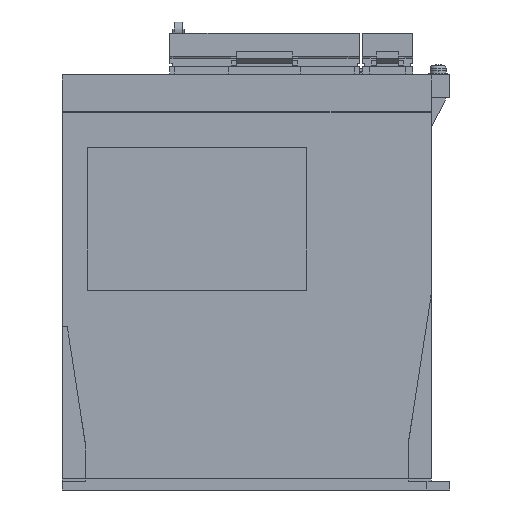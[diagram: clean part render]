
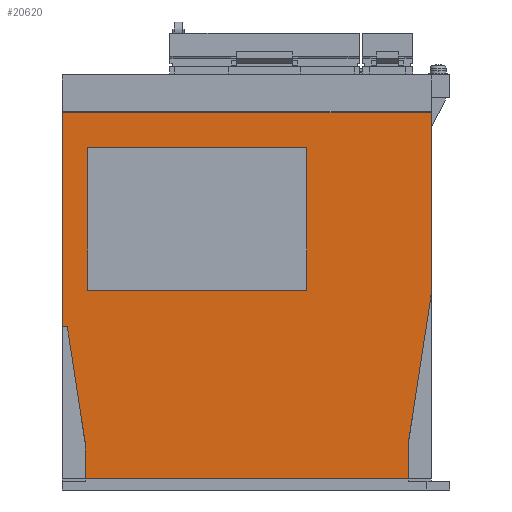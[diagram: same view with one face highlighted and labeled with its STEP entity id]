
A CAD part, left-side view. The second image highlights one B-rep face of the part: STEP entity #20620.
In plain terms, the highlighted planar face has unit normal (-1, 0, 0).
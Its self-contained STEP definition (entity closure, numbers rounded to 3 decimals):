
#593=DIRECTION('',(0.,0.,-1.));
#594=VECTOR('',#593,93.2);
#595=CARTESIAN_POINT('',(0.,160.,163.9));
#596=LINE('',#595,#594);
#1277=DIRECTION('',(0.,0.,1.));
#1278=VECTOR('',#1277,78.9);
#1279=CARTESIAN_POINT('',(0.,0.,85.));
#1280=LINE('',#1279,#1278);
#1385=DIRECTION('',(0.,1.,0.));
#1386=VECTOR('',#1385,140.);
#1387=CARTESIAN_POINT('',(0.,10.,4.9));
#1388=LINE('',#1387,#1386);
#1389=DIRECTION('',(0.,0.152,0.988));
#1390=VECTOR('',#1389,51.296);
#1391=CARTESIAN_POINT('',(0.,150.,20.));
#1392=LINE('',#1391,#1390);
#1393=DIRECTION('',(0.,1.,0.));
#1394=VECTOR('',#1393,2.2);
#1395=CARTESIAN_POINT('',(0.,157.8,70.7));
#1396=LINE('',#1395,#1394);
#1397=DIRECTION('',(0.,-1.,0.));
#1398=VECTOR('',#1397,160.);
#1399=CARTESIAN_POINT('',(0.,160.,163.9));
#1400=LINE('',#1399,#1398);
#1401=DIRECTION('',(0.,0.152,-0.988));
#1402=VECTOR('',#1401,65.765);
#1403=CARTESIAN_POINT('',(0.,0.,85.));
#1404=LINE('',#1403,#1402);
#1405=DIRECTION('',(0.,0.,-1.));
#1406=VECTOR('',#1405,15.1);
#1407=CARTESIAN_POINT('',(0.,10.,20.));
#1408=LINE('',#1407,#1406);
#1409=DIRECTION('',(0.,-1.,0.));
#1410=VECTOR('',#1409,95.);
#1411=CARTESIAN_POINT('',(0.,149.,86.6));
#1412=LINE('',#1411,#1410);
#1425=DIRECTION('',(0.,0.,-1.));
#1426=VECTOR('',#1425,15.1);
#1427=CARTESIAN_POINT('',(0.,150.,20.));
#1428=LINE('',#1427,#1426);
#1613=DIRECTION('',(0.,0.,1.));
#1614=VECTOR('',#1613,62.);
#1615=CARTESIAN_POINT('',(0.,149.,86.6));
#1616=LINE('',#1615,#1614);
#1621=DIRECTION('',(0.,-1.,0.));
#1622=VECTOR('',#1621,95.);
#1623=CARTESIAN_POINT('',(0.,149.,148.6));
#1624=LINE('',#1623,#1622);
#1629=DIRECTION('',(0.,0.,-1.));
#1630=VECTOR('',#1629,62.);
#1631=CARTESIAN_POINT('',(0.,54.,148.6));
#1632=LINE('',#1631,#1630);
#14372=CARTESIAN_POINT('',(0.,160.,163.9));
#14373=VERTEX_POINT('',#14372);
#14374=CARTESIAN_POINT('',(0.,160.,70.7));
#14375=VERTEX_POINT('',#14374);
#14398=CARTESIAN_POINT('',(0.,0.,163.9));
#14399=VERTEX_POINT('',#14398);
#17392=CARTESIAN_POINT('',(0.,150.,4.9));
#17393=VERTEX_POINT('',#17392);
#17394=CARTESIAN_POINT('',(0.,10.,4.9));
#17395=VERTEX_POINT('',#17394);
#17405=CARTESIAN_POINT('',(0.,157.8,70.7));
#17407=VERTEX_POINT('',#17405);
#17408=CARTESIAN_POINT('',(0.,150.,20.));
#17409=VERTEX_POINT('',#17408);
#17418=CARTESIAN_POINT('',(0.,0.,85.));
#17419=VERTEX_POINT('',#17418);
#17420=CARTESIAN_POINT('',(0.,10.,20.));
#17421=VERTEX_POINT('',#17420);
#17422=CARTESIAN_POINT('',(0.,149.,86.6));
#17423=CARTESIAN_POINT('',(0.,54.,86.6));
#17424=VERTEX_POINT('',#17422);
#17425=VERTEX_POINT('',#17423);
#17426=CARTESIAN_POINT('',(0.,54.,148.6));
#17427=VERTEX_POINT('',#17426);
#17428=CARTESIAN_POINT('',(0.,149.,148.6));
#17429=VERTEX_POINT('',#17428);
#20591=CARTESIAN_POINT('',(0.,160.,0.));
#20592=DIRECTION('',(-1.,0.,0.));
#20593=DIRECTION('',(0.,-1.,0.));
#20594=AXIS2_PLACEMENT_3D('',#20591,#20592,#20593);
#20595=PLANE('',#20594);
#20596=ORIENTED_EDGE('',*,*,#20418,.T.);
#20598=ORIENTED_EDGE('',*,*,#20597,.F.);
#20599=ORIENTED_EDGE('',*,*,#20524,.T.);
#20600=ORIENTED_EDGE('',*,*,#20561,.T.);
#20601=ORIENTED_EDGE('',*,*,#19437,.F.);
#20602=ORIENTED_EDGE('',*,*,#19562,.T.);
#20603=ORIENTED_EDGE('',*,*,#20368,.F.);
#20605=ORIENTED_EDGE('',*,*,#20604,.T.);
#20607=ORIENTED_EDGE('',*,*,#20606,.T.);
#20608=EDGE_LOOP('',(#20596,#20598,#20599,#20600,#20601,#20602,#20603,#20605,
#20607));
#20609=FACE_OUTER_BOUND('',#20608,.F.);
#20611=ORIENTED_EDGE('',*,*,#20610,.T.);
#20613=ORIENTED_EDGE('',*,*,#20612,.F.);
#20615=ORIENTED_EDGE('',*,*,#20614,.F.);
#20617=ORIENTED_EDGE('',*,*,#20616,.F.);
#20618=EDGE_LOOP('',(#20611,#20613,#20615,#20617));
#20619=FACE_BOUND('',#20618,.F.);
#19437=EDGE_CURVE('',#14373,#14375,#596,.T.);
#19562=EDGE_CURVE('',#14373,#14399,#1400,.T.);
#20368=EDGE_CURVE('',#17419,#14399,#1280,.T.);
#20418=EDGE_CURVE('',#17395,#17393,#1388,.T.);
#20524=EDGE_CURVE('',#17409,#17407,#1392,.T.);
#20561=EDGE_CURVE('',#17407,#14375,#1396,.T.);
#20597=EDGE_CURVE('',#17409,#17393,#1428,.T.);
#20604=EDGE_CURVE('',#17419,#17421,#1404,.T.);
#20606=EDGE_CURVE('',#17421,#17395,#1408,.T.);
#20610=EDGE_CURVE('',#17424,#17425,#1412,.T.);
#20612=EDGE_CURVE('',#17427,#17425,#1632,.T.);
#20614=EDGE_CURVE('',#17429,#17427,#1624,.T.);
#20616=EDGE_CURVE('',#17424,#17429,#1616,.T.);
#20620=ADVANCED_FACE('',(#20609,#20619),#20595,.T.);
